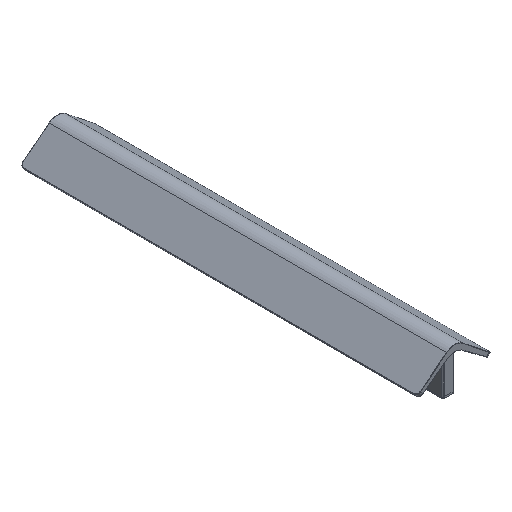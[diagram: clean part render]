
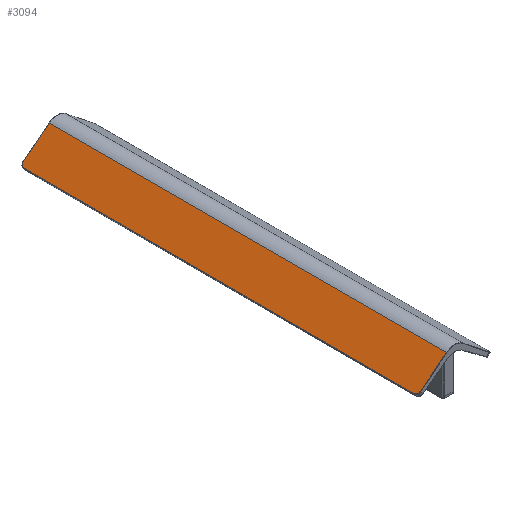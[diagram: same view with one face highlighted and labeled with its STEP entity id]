
A CAD part, isometric view. The second image highlights one B-rep face of the part: STEP entity #3094.
In plain terms, the highlighted planar face has unit normal (-0.623, 0, 0.783).
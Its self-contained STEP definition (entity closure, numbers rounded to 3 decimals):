
#48=ELLIPSE('',#3386,14.009,14.);
#49=ELLIPSE('',#3390,14.009,14.);
#253=FACE_OUTER_BOUND('',#411,.T.);
#411=EDGE_LOOP('',(#2602,#2603,#2604,#2605,#2606,#2607));
#700=LINE('',#5198,#984);
#701=LINE('',#5240,#985);
#702=LINE('',#5282,#986);
#706=LINE('',#5375,#990);
#984=VECTOR('',#4206,10.);
#985=VECTOR('',#4215,10.);
#986=VECTOR('',#4224,10.);
#990=VECTOR('',#4254,50.);
#1379=VERTEX_POINT('',#5189);
#1381=VERTEX_POINT('',#5195);
#1382=VERTEX_POINT('',#5234);
#1383=VERTEX_POINT('',#5238);
#1384=VERTEX_POINT('',#5276);
#1385=VERTEX_POINT('',#5280);
#1801=EDGE_CURVE('',#1379,#1381,#700,.T.);
#1803=EDGE_CURVE('',#1381,#1382,#48,.T.);
#1805=EDGE_CURVE('',#1382,#1383,#701,.T.);
#1807=EDGE_CURVE('',#1383,#1384,#49,.T.);
#1809=EDGE_CURVE('',#1384,#1385,#702,.T.);
#1822=EDGE_CURVE('',#1385,#1379,#706,.T.);
#2602=ORIENTED_EDGE('',*,*,#1809,.F.);
#2603=ORIENTED_EDGE('',*,*,#1807,.F.);
#2604=ORIENTED_EDGE('',*,*,#1805,.F.);
#2605=ORIENTED_EDGE('',*,*,#1803,.F.);
#2606=ORIENTED_EDGE('',*,*,#1801,.F.);
#2607=ORIENTED_EDGE('',*,*,#1822,.F.);
#2793=PLANE('',#3405);
#3094=ADVANCED_FACE('',(#253),#2793,.F.);
#3386=AXIS2_PLACEMENT_3D('',#5236,#4209,#4210);
#3390=AXIS2_PLACEMENT_3D('',#5278,#4218,#4219);
#3405=AXIS2_PLACEMENT_3D('',#5374,#4252,#4253);
#4206=DIRECTION('',(-0.783,0.,-0.623));
#4209=DIRECTION('center_axis',(0.623,0.,-0.783));
#4210=DIRECTION('ref_axis',(-0.783,0.,-0.623));
#4215=DIRECTION('',(0.,1.,0.));
#4218=DIRECTION('center_axis',(0.623,0.,-0.783));
#4219=DIRECTION('ref_axis',(-0.783,0.,-0.623));
#4224=DIRECTION('',(0.783,0.,0.623));
#4252=DIRECTION('center_axis',(0.623,0.,-0.783));
#4253=DIRECTION('ref_axis',(-0.783,0.,-0.623));
#4254=DIRECTION('',(0.,-1.,0.));
#5189=CARTESIAN_POINT('',(-31.126,1.,99.044));
#5195=CARTESIAN_POINT('',(-128.836,1.,21.322));
#5198=CARTESIAN_POINT('',(6.482,1.,128.959));
#5234=CARTESIAN_POINT('',(-139.799,15.,12.601));
#5236=CARTESIAN_POINT('Origin',(-128.836,15.,21.322));
#5238=CARTESIAN_POINT('',(-139.799,1485.,12.601));
#5240=CARTESIAN_POINT('',(-139.799,0.,12.601));
#5276=CARTESIAN_POINT('',(-128.836,1499.,21.322));
#5278=CARTESIAN_POINT('Origin',(-128.836,1485.,21.322));
#5280=CARTESIAN_POINT('',(-31.126,1499.,99.044));
#5282=CARTESIAN_POINT('',(6.482,1499.,128.959));
#5374=CARTESIAN_POINT('Origin',(0.088,0.,123.873));
#5375=CARTESIAN_POINT('',(-31.126,0.,99.044));
